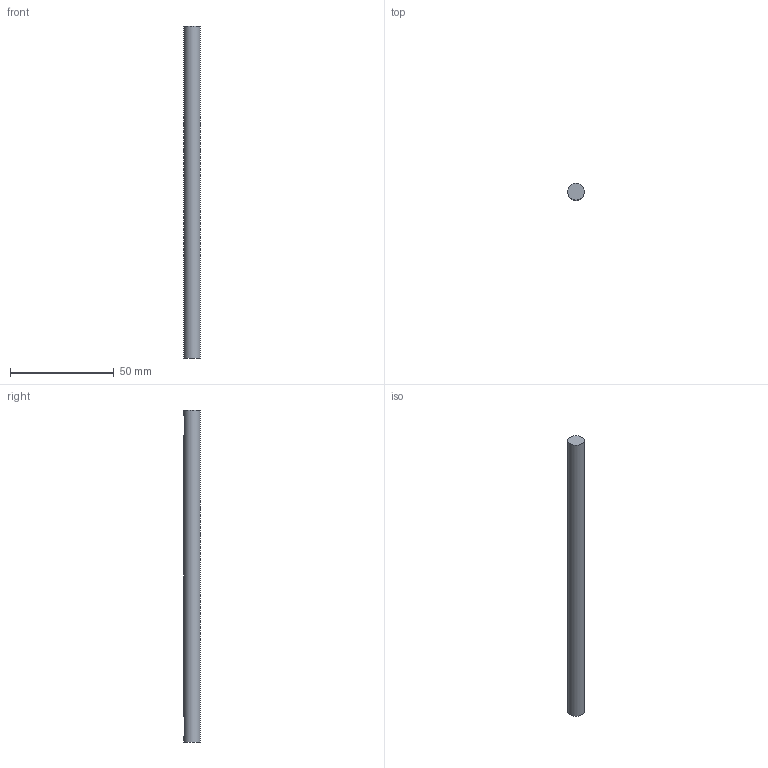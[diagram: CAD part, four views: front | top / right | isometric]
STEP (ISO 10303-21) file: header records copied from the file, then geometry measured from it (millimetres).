
FILE_DESCRIPTION(('Open CASCADE Model'),'2;1');
FILE_NAME('Open CASCADE Shape Model','2026-10-15T02:45:44',('Author'),( 'Open CASCADE'),'Open CASCADE STEP processor 7.9','Open CASCADE 7.9' ,'Unknown');
FILE_SCHEMA(('AUTOMOTIVE_DESIGN { 1 0 10303 214 1 1 1 1 }'));
Length unit declared in the file: millimetre
Products named in the file (1): Open CASCADE STEP translator 7.9 9
Bounding box: 8 x 8 x 160 mm (x, y, z)
Volume: 8016.3 mm3; surface area: 4123.6 mm2
Topology: 1 solids, 1 shells, 9 faces, 15 edges, 10 vertices
Faces by surface type: plane 8, cylinder 1
Full cylindrical faces by diameter (mm): 8 x1
Entity records: 424 total; most frequent: CARTESIAN_POINT 97, DIRECTION 59, ORIENTED_EDGE 30, PCURVE 30, DEFINITIONAL_REPRESENTATION 30, LINE 25, VECTOR 25, AXIS2_PLACEMENT_3D 16
